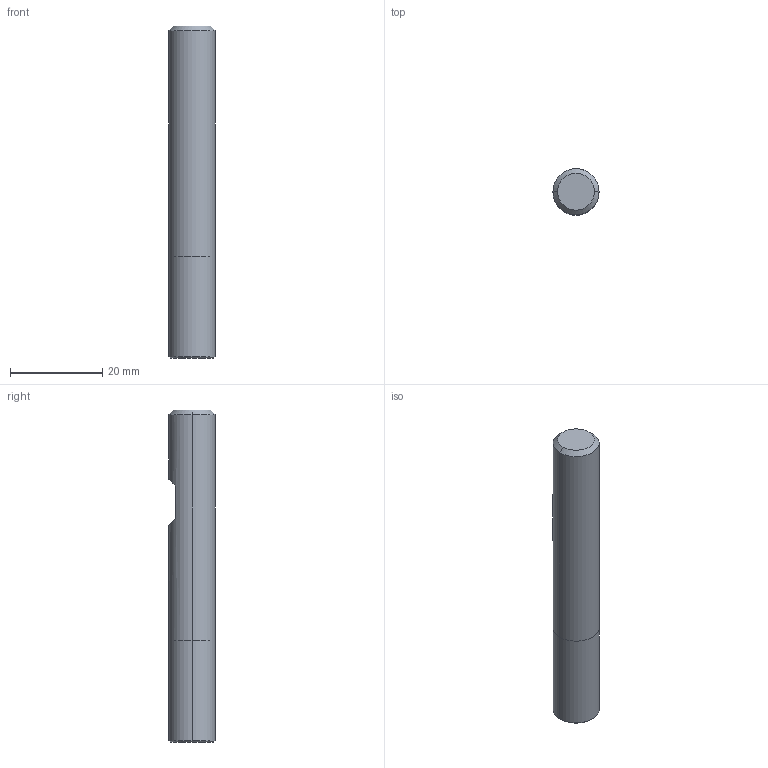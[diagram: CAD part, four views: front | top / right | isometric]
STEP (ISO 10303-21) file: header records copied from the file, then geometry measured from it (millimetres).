
FILE_DESCRIPTION (( 'STEP AP214' ), '1' );
FILE_NAME ('732.100.00_3D-model.step', '2022-02-19T08:21:51', ( '' ), ( '' ), 'SwSTEP 2.0', 'SolidWorks 2020', '' );
FILE_SCHEMA (( 'AUTOMOTIVE_DESIGN' ));
Length unit declared in the file: millimetre
Products named in the file (3): NOCUT-3D^Baugr138; 732.100.00_3D-model; CUT-3D^Baugr138
Assembly tree (2 placements, depth 2):
  732.100.00_3D-model
    CUT-3D^Baugr138
    NOCUT-3D^Baugr138
Bounding box: 10 x 10 x 72 mm (x, y, z)
Volume: 5578.1 mm3; surface area: 2550.2 mm2
Topology: 2 solids, 2 shells, 15 faces, 26 edges, 16 vertices
Faces by surface type: plane 7, cylinder 4, cone 4
Entity records: 482 total; most frequent: DIRECTION 82, CARTESIAN_POINT 71, ORIENTED_EDGE 52, AXIS2_PLACEMENT_3D 35, EDGE_CURVE 26, EDGE_LOOP 16, VERTEX_POINT 16, FACE_OUTER_BOUND 15
